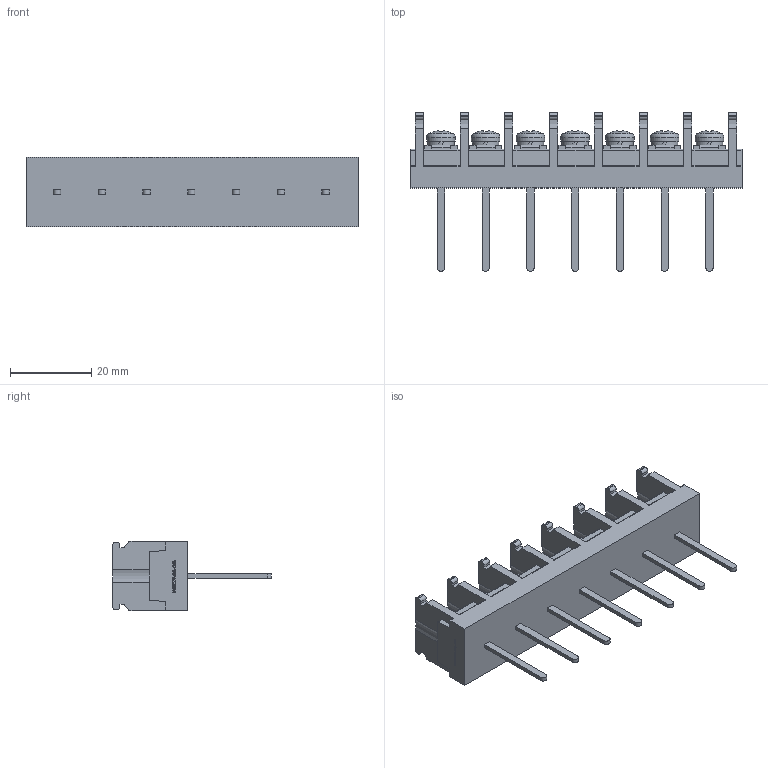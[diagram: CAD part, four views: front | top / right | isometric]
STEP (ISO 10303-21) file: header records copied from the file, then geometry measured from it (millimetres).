
FILE_DESCRIPTION(/* description */ ('Alibre Inc.'),/* implementation_level */ '2;1');
FILE_NAME(/* name */ 'export0',/* time_stamp */ '2015-10-20T07:46:48+09:00',/* author */ (''),/* organization */ (''),/* preprocessor_version */ 'ST-DEVELOPER v14',/* originating_system */ 'Alibre',/* authorisation */ '');
FILE_SCHEMA (('CONFIG_CONTROL_DESIGN'));
Length unit declared in the file: centimetre
Products named in the file (1): ID_1
Bounding box: 81.6 x 39 x 17 mm (x, y, z)
Volume: 15608.1 mm3; surface area: 9390.7 mm2
Topology: 1 solids, 1 shells, 933 faces, 2589 edges, 1719 vertices
Faces by surface type: plane 654, cylinder 126, bspline 104, cone 28, torus 14, sphere 7
Full cylindrical faces by diameter (mm): 4 x7, 6.5 x7, 7 x7
Entity records: 28932 total; most frequent: CARTESIAN_POINT 6306, ORIENTED_EDGE 5080, DIRECTION 3711, EDGE_CURVE 2540, VECTOR 1805, LINE 1805, VERTEX_POINT 1698, AXIS2_PLACEMENT_3D 1275
